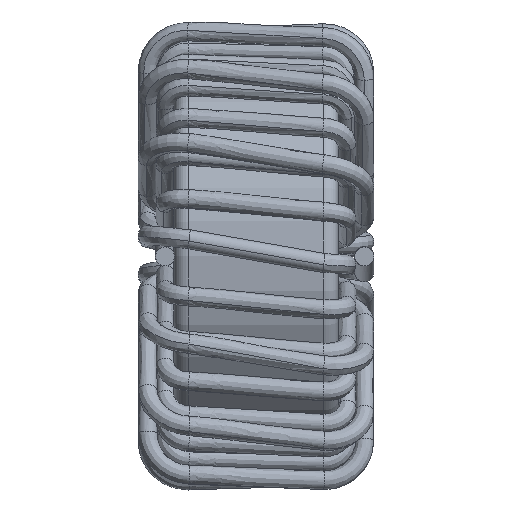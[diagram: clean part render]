
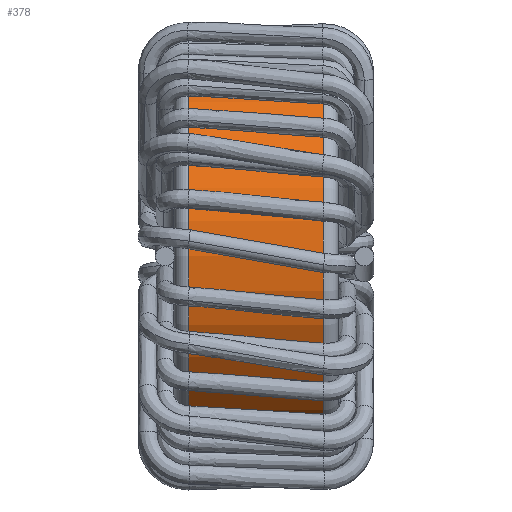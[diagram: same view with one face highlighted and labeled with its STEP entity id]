
A CAD part, left-side view. The second image highlights one B-rep face of the part: STEP entity #378.
In plain terms, the highlighted cylindrical face has radius 6.73 mm (diameter 13.46 mm), a partial arc.
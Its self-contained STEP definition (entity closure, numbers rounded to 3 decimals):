
#355 = VERTEX_POINT ( 'NONE', #59420 ) ;
#378 = ADVANCED_FACE ( 'NONE', ( #19026 ), #51432, .T. ) ;
#1499 = DIRECTION ( 'NONE',  ( 0., 0., -1. ) ) ;
#2353 = LINE ( 'NONE', #61427, #20320 ) ;
#3405 = VERTEX_POINT ( 'NONE', #16847 ) ;
#4279 = EDGE_CURVE ( 'NONE', #355, #3405, #2353, .T. ) ;
#5726 = CARTESIAN_POINT ( 'NONE',  ( -109.592, 29.327, 46.312 ) ) ;
#6194 = EDGE_CURVE ( 'NONE', #3405, #25796, #21761, .T. ) ;
#6694 = EDGE_CURVE ( 'NONE', #58300, #25796, #12290, .T. ) ;
#8581 = AXIS2_PLACEMENT_3D ( 'NONE', #32718, #27486, #1499 ) ;
#11019 = ORIENTED_EDGE ( 'NONE', *, *, #6694, .F. ) ;
#11510 = CARTESIAN_POINT ( 'NONE',  ( -109.592, 29.327, 39.582 ) ) ;
#12290 = LINE ( 'NONE', #42694, #59182 ) ;
#14957 = ORIENTED_EDGE ( 'NONE', *, *, #37173, .T. ) ;
#16022 = AXIS2_PLACEMENT_3D ( 'NONE', #11510, #58919, #64419 ) ;
#16847 = CARTESIAN_POINT ( 'NONE',  ( -109.592, 29.327, 32.852 ) ) ;
#19026 = FACE_OUTER_BOUND ( 'NONE', #66800, .T. ) ;
#20320 = VECTOR ( 'NONE', #23560, 1000. ) ;
#20616 = DIRECTION ( 'NONE',  ( 0., 0., 1. ) ) ;
#21068 = DIRECTION ( 'NONE',  ( 0., -1., 0. ) ) ;
#21761 = CIRCLE ( 'NONE', #16022, 6.73 ) ;
#21870 = ORIENTED_EDGE ( 'NONE', *, *, #6194, .T. ) ;
#23560 = DIRECTION ( 'NONE',  ( 0., -1., 0. ) ) ;
#25796 = VERTEX_POINT ( 'NONE', #5726 ) ;
#26002 = DIRECTION ( 'NONE',  ( 0., -1., 0. ) ) ;
#27486 = DIRECTION ( 'NONE',  ( 0., -1., 0. ) ) ;
#32718 = CARTESIAN_POINT ( 'NONE',  ( -109.592, 34.337, 39.582 ) ) ;
#37173 = EDGE_CURVE ( 'NONE', #58300, #355, #69537, .T. ) ;
#40010 = CARTESIAN_POINT ( 'NONE',  ( -109.592, 33.837, 46.312 ) ) ;
#42694 = CARTESIAN_POINT ( 'NONE',  ( -109.592, 34.337, 46.312 ) ) ;
#51432 = CYLINDRICAL_SURFACE ( 'NONE', #8581, 6.73 ) ;
#58300 = VERTEX_POINT ( 'NONE', #40010 ) ;
#58919 = DIRECTION ( 'NONE',  ( 0., 1., 0. ) ) ;
#59182 = VECTOR ( 'NONE', #26002, 1000. ) ;
#59420 = CARTESIAN_POINT ( 'NONE',  ( -109.592, 33.837, 32.852 ) ) ;
#60850 = AXIS2_PLACEMENT_3D ( 'NONE', #69871, #21068, #20616 ) ;
#61427 = CARTESIAN_POINT ( 'NONE',  ( -109.592, 34.337, 32.852 ) ) ;
#63818 = ORIENTED_EDGE ( 'NONE', *, *, #4279, .T. ) ;
#64419 = DIRECTION ( 'NONE',  ( 0., 0., 1. ) ) ;
#66800 = EDGE_LOOP ( 'NONE', ( #11019, #14957, #63818, #21870 ) ) ;
#69537 = CIRCLE ( 'NONE', #60850, 6.73 ) ;
#69871 = CARTESIAN_POINT ( 'NONE',  ( -109.592, 33.837, 39.582 ) ) ;
